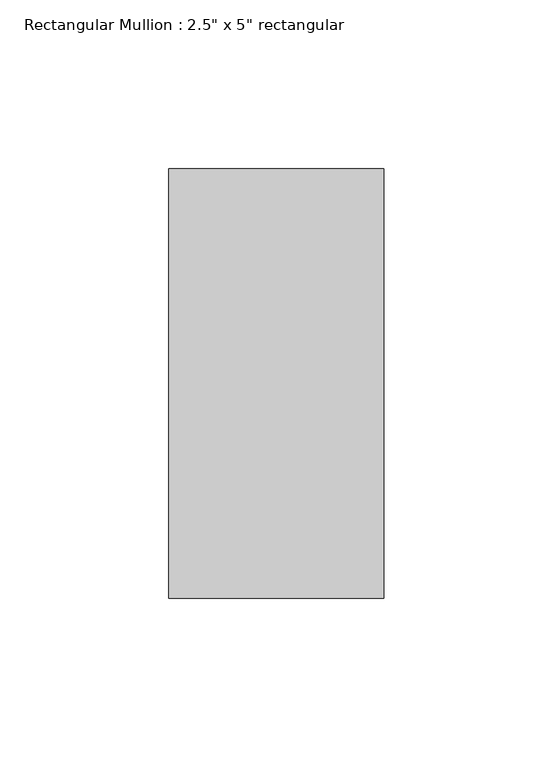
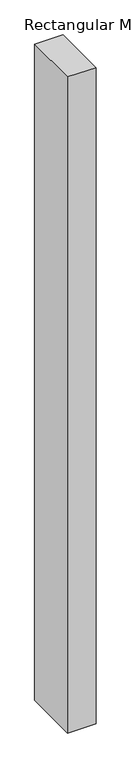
"""IFC4 building model written with IfcOpenShell, lengths in millimetres: member geometry."""

from ifc_helpers import new_model, si_unit, frame, origin, place, context, project, spatial, polyline, outline, extrude, source, transform, mapped, element, save


def member_c1df12fd(model_context):
    return source(origin(), model_context, "Body", "SweptSolid", [
        extrude(outline(polyline([(31.75, 63.5), (31.75, -63.5), (-31.75, -63.5), (-31.75, 63.5), (31.75, 63.5)])), frame((0.0, 0.0, -1549.4), z_axis=(0.0, 0.0, 1.0), x_axis=(1.0, 0.0, 0.0)), (0.0, 0.0, 1.0), 1549.4),
    ])


if __name__ == "__main__":
    model = new_model("IFC4")
    model_context = context("Model", 3, world=origin())
    ifc_project = project(units=[si_unit("LENGTHUNIT", "METRE", prefix="MILLI")], contexts=[model_context])
    site = spatial("IfcSite", under=ifc_project)
    building = spatial("IfcBuilding", under=site)
    placement = place(None, origin())
    member_shape = member_c1df12fd(model_context)
    element("IfcMember", 1, ObjectType="Rectangular Mullion : 2.5\" x 5\" rectangular", at=placement, inside=building, context=model_context, shape_type="MappedRepresentation", body=[
        mapped(member_shape, transform((0.0, 0.0, 0.0), x_axis=(1.0, 0.0, 0.0), y_axis=(0.0, 1.0, 0.0), z_axis=(0.0, 0.0, 1.0))),
    ])
    save(model, "model.ifc")
